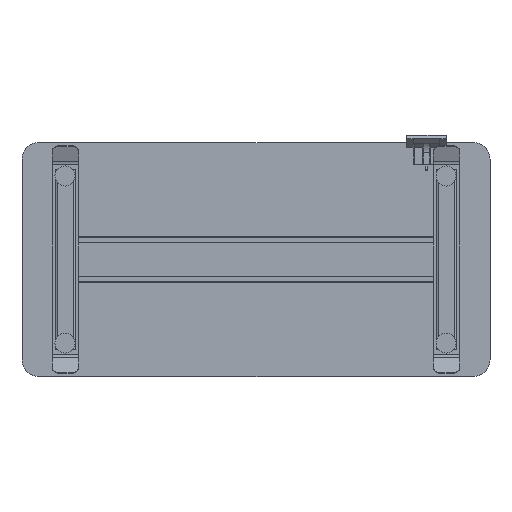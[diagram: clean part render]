
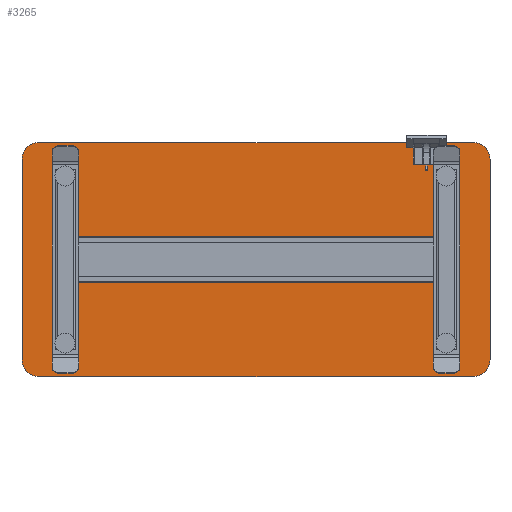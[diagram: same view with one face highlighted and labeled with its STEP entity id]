
A CAD part, front view. The second image highlights one B-rep face of the part: STEP entity #3265.
In plain terms, the highlighted planar face has unit normal (0, -1, 0).
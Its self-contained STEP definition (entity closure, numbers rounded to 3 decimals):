
#303 = DIRECTION ( 'NONE',  ( 0., 0., 1. ) ) ;
#310 = VERTEX_POINT ( 'NONE', #11795 ) ;
#379 = VERTEX_POINT ( 'NONE', #5555 ) ;
#495 = VERTEX_POINT ( 'NONE', #9681 ) ;
#816 = ORIENTED_EDGE ( 'NONE', *, *, #5587, .F. ) ;
#1202 = DIRECTION ( 'NONE',  ( 0., 0., -1. ) ) ;
#1248 = AXIS2_PLACEMENT_3D ( 'NONE', #7372, #10979, #5668 ) ;
#1393 = CARTESIAN_POINT ( 'NONE',  ( 50., 0., 0. ) ) ;
#1460 = EDGE_CURVE ( 'NONE', #5577, #495, #9652, .T. ) ;
#1848 = CARTESIAN_POINT ( 'NONE',  ( 1350., 0., -50. ) ) ;
#2202 = CARTESIAN_POINT ( 'NONE',  ( 0., 0., -650. ) ) ;
#2238 = LINE ( 'NONE', #5740, #3968 ) ;
#2497 = DIRECTION ( 'NONE',  ( -1., 0., 0. ) ) ;
#3183 = FACE_OUTER_BOUND ( 'NONE', #8762, .T. ) ;
#3206 = CARTESIAN_POINT ( 'NONE',  ( 50., 0., -700. ) ) ;
#3265 = ADVANCED_FACE ( 'NONE', ( #3183 ), #5431, .F. ) ;
#3275 = EDGE_CURVE ( 'NONE', #495, #4683, #5460, .T. ) ;
#3295 = CIRCLE ( 'NONE', #11324, 50. ) ;
#3818 = CARTESIAN_POINT ( 'NONE',  ( 1350., 0., -50. ) ) ;
#3936 = CARTESIAN_POINT ( 'NONE',  ( 50., 0., 0. ) ) ;
#3941 = DIRECTION ( 'NONE',  ( 0., 1., 0. ) ) ;
#3968 = VECTOR ( 'NONE', #9583, 1000. ) ;
#4207 = AXIS2_PLACEMENT_3D ( 'NONE', #6641, #5741, #1202 ) ;
#4573 = DIRECTION ( 'NONE',  ( 0., 0., 1. ) ) ;
#4683 = VERTEX_POINT ( 'NONE', #10286 ) ;
#5026 = DIRECTION ( 'NONE',  ( 0., 1., 0. ) ) ;
#5431 = PLANE ( 'NONE',  #6430 ) ;
#5441 = CARTESIAN_POINT ( 'NONE',  ( 0., 0., -50. ) ) ;
#5460 = CIRCLE ( 'NONE', #5823, 50. ) ;
#5555 = CARTESIAN_POINT ( 'NONE',  ( 1350., 0., -700. ) ) ;
#5577 = VERTEX_POINT ( 'NONE', #1393 ) ;
#5587 = EDGE_CURVE ( 'NONE', #4683, #10999, #2238, .T. ) ;
#5668 = DIRECTION ( 'NONE',  ( 0., 0., -1. ) ) ;
#5740 = CARTESIAN_POINT ( 'NONE',  ( 1400., 0., -50. ) ) ;
#5741 = DIRECTION ( 'NONE',  ( 0., 1., 0. ) ) ;
#5779 = ORIENTED_EDGE ( 'NONE', *, *, #8295, .F. ) ;
#5786 = DIRECTION ( 'NONE',  ( 1., 0., 0. ) ) ;
#5823 = AXIS2_PLACEMENT_3D ( 'NONE', #3818, #3941, #303 ) ;
#5867 = DIRECTION ( 'NONE',  ( 0., 0., -1. ) ) ;
#5994 = EDGE_CURVE ( 'NONE', #11066, #310, #8321, .T. ) ;
#6202 = CARTESIAN_POINT ( 'NONE',  ( 50., 0., -700. ) ) ;
#6273 = ORIENTED_EDGE ( 'NONE', *, *, #6548, .F. ) ;
#6342 = DIRECTION ( 'NONE',  ( 0., 1., 0. ) ) ;
#6344 = VECTOR ( 'NONE', #4573, 1000. ) ;
#6430 = AXIS2_PLACEMENT_3D ( 'NONE', #1848, #6342, #9083 ) ;
#6548 = EDGE_CURVE ( 'NONE', #10999, #379, #9308, .T. ) ;
#6641 = CARTESIAN_POINT ( 'NONE',  ( 50., 0., -50. ) ) ;
#6739 = CARTESIAN_POINT ( 'NONE',  ( 50., 0., -650. ) ) ;
#7037 = CIRCLE ( 'NONE', #4207, 50. ) ;
#7372 = CARTESIAN_POINT ( 'NONE',  ( 1350., 0., -650. ) ) ;
#7416 = VECTOR ( 'NONE', #2497, 1000. ) ;
#7739 = VERTEX_POINT ( 'NONE', #3206 ) ;
#7930 = VECTOR ( 'NONE', #5786, 1000. ) ;
#8295 = EDGE_CURVE ( 'NONE', #7739, #11066, #3295, .T. ) ;
#8321 = LINE ( 'NONE', #5441, #6344 ) ;
#8419 = ORIENTED_EDGE ( 'NONE', *, *, #5994, .F. ) ;
#8762 = EDGE_LOOP ( 'NONE', ( #9272, #11575, #11119, #8419, #5779, #11173, #6273, #816 ) ) ;
#9083 = DIRECTION ( 'NONE',  ( 0., 0., 1. ) ) ;
#9175 = EDGE_CURVE ( 'NONE', #379, #7739, #9824, .T. ) ;
#9272 = ORIENTED_EDGE ( 'NONE', *, *, #3275, .F. ) ;
#9308 = CIRCLE ( 'NONE', #1248, 50. ) ;
#9583 = DIRECTION ( 'NONE',  ( 0., 0., -1. ) ) ;
#9652 = LINE ( 'NONE', #3936, #7930 ) ;
#9681 = CARTESIAN_POINT ( 'NONE',  ( 1350., 0., 0. ) ) ;
#9824 = LINE ( 'NONE', #6202, #7416 ) ;
#10115 = CARTESIAN_POINT ( 'NONE',  ( 1400., 0., -650. ) ) ;
#10286 = CARTESIAN_POINT ( 'NONE',  ( 1400., 0., -50. ) ) ;
#10979 = DIRECTION ( 'NONE',  ( 0., 1., 0. ) ) ;
#10999 = VERTEX_POINT ( 'NONE', #10115 ) ;
#11066 = VERTEX_POINT ( 'NONE', #2202 ) ;
#11119 = ORIENTED_EDGE ( 'NONE', *, *, #11599, .F. ) ;
#11173 = ORIENTED_EDGE ( 'NONE', *, *, #9175, .F. ) ;
#11324 = AXIS2_PLACEMENT_3D ( 'NONE', #6739, #5026, #5867 ) ;
#11575 = ORIENTED_EDGE ( 'NONE', *, *, #1460, .F. ) ;
#11599 = EDGE_CURVE ( 'NONE', #310, #5577, #7037, .T. ) ;
#11795 = CARTESIAN_POINT ( 'NONE',  ( 0., 0., -50. ) ) ;
